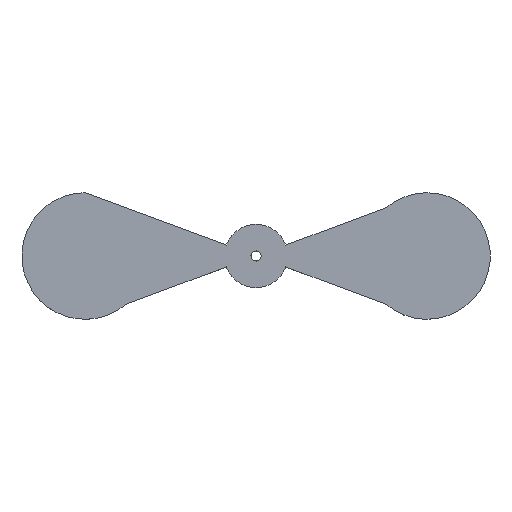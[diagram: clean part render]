
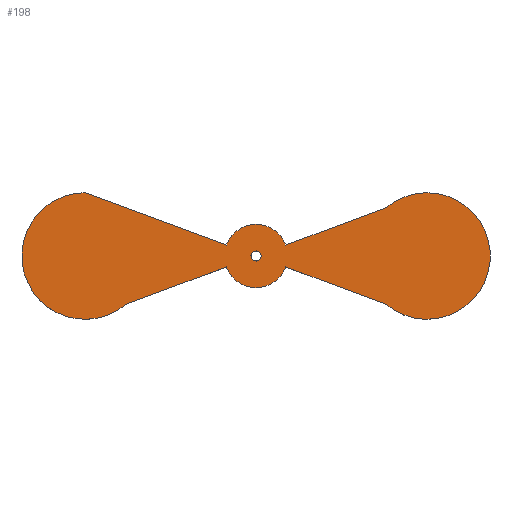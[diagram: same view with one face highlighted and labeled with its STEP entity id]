
A CAD part, top view. The second image highlights one B-rep face of the part: STEP entity #198.
In plain terms, the highlighted planar face has unit normal (0, 0, 1).
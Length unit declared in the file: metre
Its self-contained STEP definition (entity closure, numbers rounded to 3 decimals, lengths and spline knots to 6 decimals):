
#13=CIRCLE('',#216,0.0025);
#15=CIRCLE('',#220,0.005);
#17=CIRCLE('',#224,0.0025);
#19=CIRCLE('',#228,0.005);
#20=CIRCLE('',#230,0.0004);
#61=ORIENTED_EDGE('',*,*,#81,.F.);
#62=ORIENTED_EDGE('',*,*,#85,.T.);
#63=ORIENTED_EDGE('',*,*,#88,.F.);
#64=ORIENTED_EDGE('',*,*,#91,.T.);
#65=ORIENTED_EDGE('',*,*,#94,.F.);
#66=ORIENTED_EDGE('',*,*,#97,.T.);
#67=ORIENTED_EDGE('',*,*,#100,.T.);
#68=ORIENTED_EDGE('',*,*,#102,.T.);
#69=ORIENTED_EDGE('',*,*,#103,.F.);
#81=EDGE_CURVE('',#107,#108,#125,.T.);
#85=EDGE_CURVE('',#107,#110,#13,.T.);
#88=EDGE_CURVE('',#112,#110,#130,.T.);
#91=EDGE_CURVE('',#112,#114,#15,.T.);
#94=EDGE_CURVE('',#116,#114,#134,.T.);
#97=EDGE_CURVE('',#116,#118,#17,.T.);
#100=EDGE_CURVE('',#118,#120,#138,.T.);
#102=EDGE_CURVE('',#120,#108,#19,.T.);
#103=EDGE_CURVE('',#121,#121,#20,.T.);
#107=VERTEX_POINT('',#300);
#108=VERTEX_POINT('',#302);
#110=VERTEX_POINT('',#308);
#112=VERTEX_POINT('',#314);
#114=VERTEX_POINT('',#320);
#116=VERTEX_POINT('',#326);
#118=VERTEX_POINT('',#332);
#120=VERTEX_POINT('',#338);
#121=VERTEX_POINT('',#345);
#125=LINE('',#301,#141);
#130=LINE('',#315,#146);
#134=LINE('',#327,#150);
#138=LINE('',#339,#154);
#141=VECTOR('',#240,1.);
#146=VECTOR('',#253,1.);
#150=VECTOR('',#265,1.);
#154=VECTOR('',#277,1.);
#165=EDGE_LOOP('',(#61,#62,#63,#64,#65,#66,#67,#68));
#166=EDGE_LOOP('',(#69));
#179=FACE_BOUND('',#165,.T.);
#180=FACE_BOUND('',#166,.T.);
#187=PLANE('',#232);
#198=ADVANCED_FACE('',(#179,#180),#187,.T.);
#216=AXIS2_PLACEMENT_3D('',#309,#247,#248);
#220=AXIS2_PLACEMENT_3D('',#321,#259,#260);
#224=AXIS2_PLACEMENT_3D('',#333,#271,#272);
#228=AXIS2_PLACEMENT_3D('',#342,#282,#283);
#230=AXIS2_PLACEMENT_3D('',#344,#286,#287);
#232=AXIS2_PLACEMENT_3D('',#348,#290,#291);
#240=DIRECTION('',(0.938,0.347,0.));
#247=DIRECTION('',(0.,0.,1.));
#248=DIRECTION('',(0.938,0.347,0.));
#253=DIRECTION('',(0.938,-0.347,0.));
#259=DIRECTION('',(0.,0.,1.));
#260=DIRECTION('',(0.,1.,0.));
#265=DIRECTION('',(-0.938,-0.347,0.));
#271=DIRECTION('',(0.,0.,1.));
#272=DIRECTION('',(-0.938,-0.347,0.));
#277=DIRECTION('',(0.938,-0.347,0.));
#282=DIRECTION('',(0.,0.,1.));
#283=DIRECTION('',(-0.651,-0.759,0.));
#286=DIRECTION('',(0.,0.,1.));
#287=DIRECTION('',(-0.938,0.347,0.));
#290=DIRECTION('',(0.,0.,1.));
#291=DIRECTION('',(-1.,0.,0.));
#300=CARTESIAN_POINT('',(-0.040156,-0.026969,0.0045));
#301=CARTESIAN_POINT('',(-0.036206,-0.025507,0.0045));
#302=CARTESIAN_POINT('',(-0.032257,-0.024044,0.0045));
#308=CARTESIAN_POINT('',(-0.044844,-0.026969,0.0045));
#309=CARTESIAN_POINT('',(-0.0425,-0.027838,0.0045));
#314=CARTESIAN_POINT('',(-0.056,-0.022838,0.0045));
#315=CARTESIAN_POINT('',(-0.048794,-0.025507,0.0045));
#320=CARTESIAN_POINT('',(-0.052743,-0.031631,0.0045));
#321=CARTESIAN_POINT('',(-0.056,-0.027838,0.0045));
#326=CARTESIAN_POINT('',(-0.044844,-0.028706,0.0045));
#327=CARTESIAN_POINT('',(-0.048794,-0.030169,0.0045));
#332=CARTESIAN_POINT('',(-0.040156,-0.028706,0.0045));
#333=CARTESIAN_POINT('',(-0.0425,-0.027838,0.0045));
#338=CARTESIAN_POINT('',(-0.032257,-0.031631,0.0045));
#339=CARTESIAN_POINT('',(-0.036206,-0.030169,0.0045));
#342=CARTESIAN_POINT('',(-0.029,-0.027838,0.0045));
#344=CARTESIAN_POINT('',(-0.0425,-0.027838,0.0045));
#345=CARTESIAN_POINT('',(-0.042875,-0.027699,0.0045));
#348=CARTESIAN_POINT('',(-0.0425,-0.027838,0.0045));
